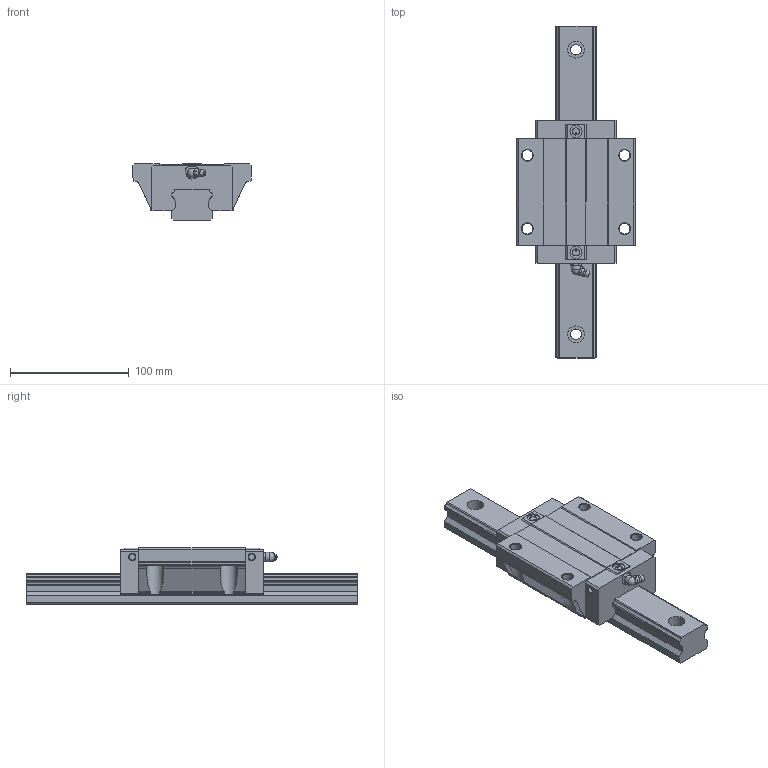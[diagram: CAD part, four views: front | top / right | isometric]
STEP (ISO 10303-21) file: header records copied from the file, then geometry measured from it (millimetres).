
FILE_DESCRIPTION(/* description */ (''),/* implementation_level */ '2;1');
FILE_NAME(/* name */ 'SME35-EA',/* time_stamp */ '2008-10-06T10:29:54+08:00',/* author */ (''),/* organization */ (''),/* preprocessor_version */ 'ST-DEVELOPER v11',/* originating_system */ 'UGS - NX 5.0',/* authorisation */ '');
FILE_SCHEMA (('AUTOMOTIVE_DESIGN { 1 0 10303 214 1 1 1 1 }'));
Length unit declared in the file: millimetre
Products named in the file (1): jillBD1Calmi
Bounding box: 100 x 280 x 48 mm (x, y, z)
Volume: 531106.5 mm3; surface area: 82619.1 mm2
Topology: 3 solids, 3 shells, 227 faces, 601 edges, 396 vertices
Faces by surface type: plane 141, cylinder 65, cone 9, torus 7, sphere 4, bspline 1
Full cylindrical faces by diameter (mm): 5.2 x4, 6 x2, 6.5 x2, 8 x1, 9 x8, 10.2 x2, 14 x4
Entity records: 7193 total; most frequent: CARTESIAN_POINT 1402, DIRECTION 1138, ORIENTED_EDGE 1098, EDGE_CURVE 549, AXIS2_PLACEMENT_3D 388, VERTEX_POINT 382, LINE 362, VECTOR 362
